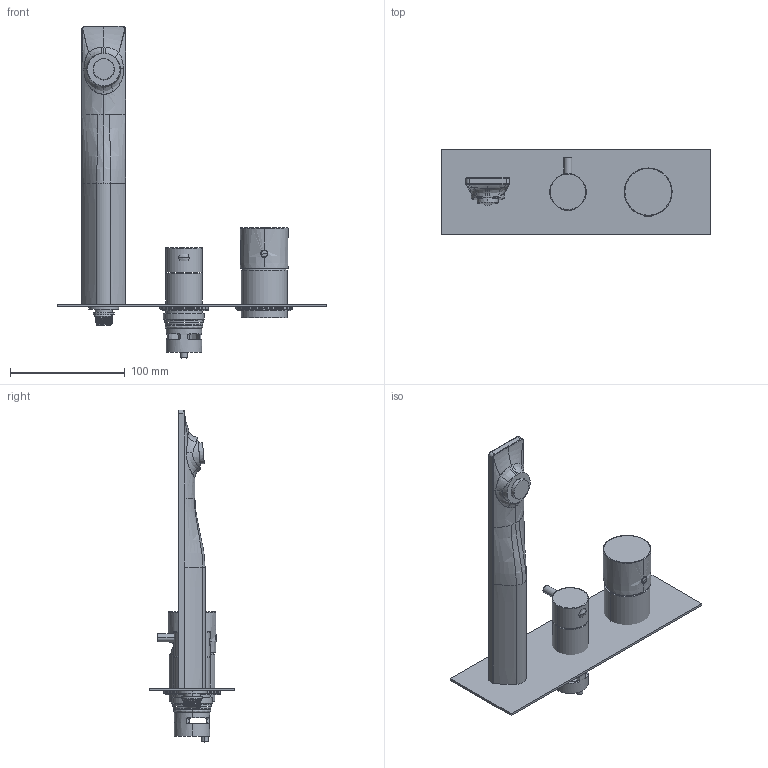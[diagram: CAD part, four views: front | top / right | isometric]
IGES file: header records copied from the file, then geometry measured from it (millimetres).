
Start section:  PTC IGES file: 78528sv3_sw0001.igs
Global section: file name: 78528sv3_sw0001.igs; native system: Creo Parametric by PTC Inc.; preprocessor: 2022014; author: volponeff; organization: Unknown; date: 20230601.091936; units: millimetre
Bounding box: 235 x 75 x 289.6 mm (x, y, z)
Surface area: 107996.9 mm2 (no closed solid volume)
Topology: 0 solids, 0 shells, 229 faces, 1144 edges, 1140 vertices
Faces by surface type: revolution 143, bspline 82, extrusion 4
